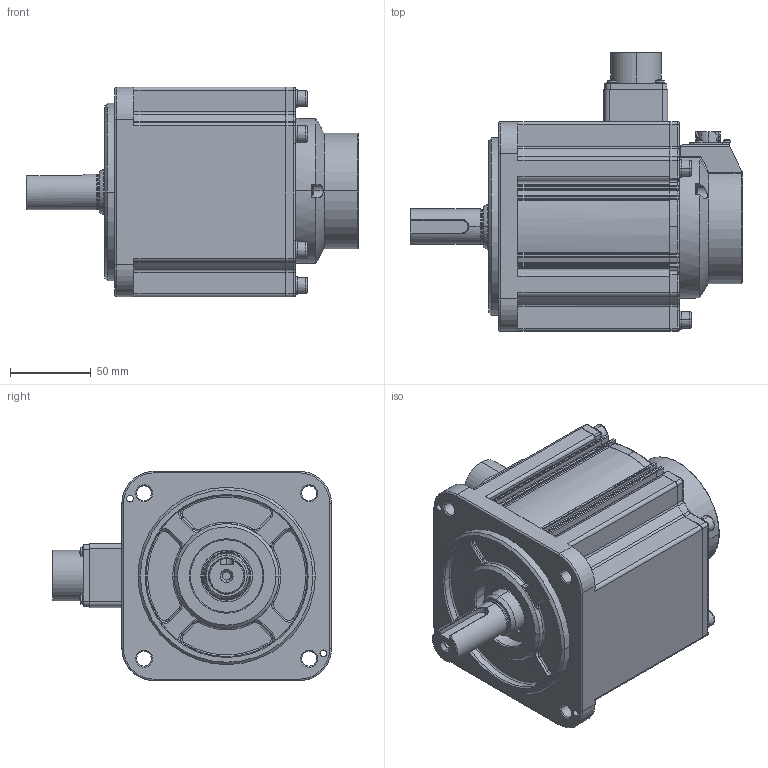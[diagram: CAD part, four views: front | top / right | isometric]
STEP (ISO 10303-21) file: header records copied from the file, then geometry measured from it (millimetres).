
FILE_DESCRIPTION((''),'2;1');
FILE_NAME('4611170001045','2023-03-31T13:27:21',('ms28071'),(''),'CREO PARAMETRIC BY PTC INC, 2018100','CREO PARAMETRIC BY PTC INC, 2018100','');
FILE_SCHEMA(('CONFIG_CONTROL_DESIGN'));
Length unit declared in the file: millimetre
Products named in the file (1): 4611170001045
Bounding box: 206 x 173 x 130 mm (x, y, z)
Surface area: 147199.2 mm2 (no closed solid volume)
Topology: 0 solids, 48 shells, 898 faces, 2725 edges, 1837 vertices
Faces by surface type: cylinder 408, plane 268, torus 112, cone 66, sphere 22, bspline 22
Entity records: 34802 total; most frequent: CARTESIAN_POINT 10351, DIRECTION 5322, ORIENTED_EDGE 4756, EDGE_CURVE 2709, AXIS2_PLACEMENT_3D 2095, VERTEX_POINT 1837, CIRCLE 1219, VECTOR 1132
